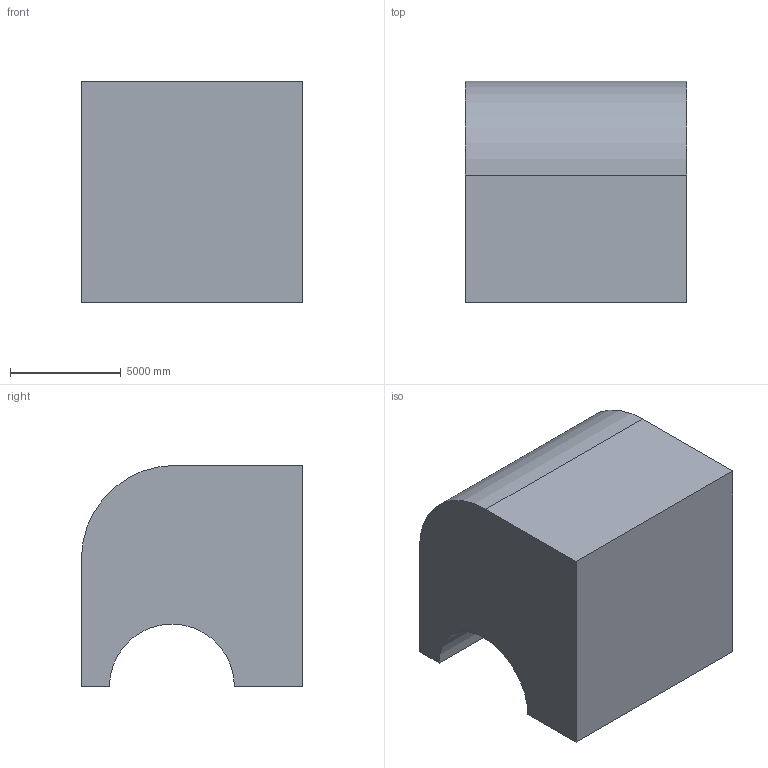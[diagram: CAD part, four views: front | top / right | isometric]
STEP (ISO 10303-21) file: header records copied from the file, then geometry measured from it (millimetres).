
FILE_DESCRIPTION (( 'STEP AP203' ), '1' );
FILE_NAME ('3.STEP', '2022-08-31T11:07:37', ( 'user' ), ( '' ), 'SwSTEP 2.0', 'SolidWorks 2021', '' );
FILE_SCHEMA (( 'CONFIG_CONTROL_DESIGN' ));
Length unit declared in the file: centimetre
Products named in the file (1): 3
Bounding box: 10000 x 10000 x 10000 mm (x, y, z)
Volume: 835958078545.6 mm3; surface area: 581223322.4 mm2
Topology: 1 solids, 1 shells, 9 faces, 21 edges, 14 vertices
Faces by surface type: plane 7, cylinder 2
Entity records: 336 total; most frequent: DIRECTION 45, CARTESIAN_POINT 45, ORIENTED_EDGE 42, EDGE_CURVE 21, LINE 17, VECTOR 17, AXIS2_PLACEMENT_3D 14, VERTEX_POINT 14
